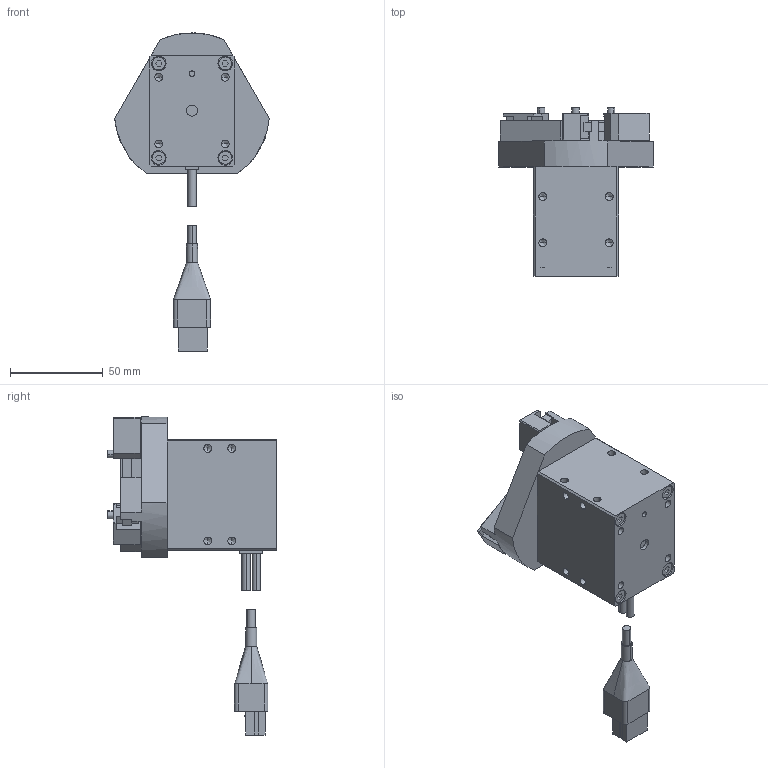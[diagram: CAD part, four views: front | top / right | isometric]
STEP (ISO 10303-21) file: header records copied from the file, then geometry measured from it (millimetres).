
FILE_DESCRIPTION( (''), '2;1');
FILE_NAME ('JPN451UTO395W71.6368.ESG1-ST-4230_5110.stp','2016-01-12T14:13:49',(''),(''),'spGate 4.0','spGate 4.0','');
FILE_SCHEMA (('AUTOMOTIVE_DESIGN'));
Length unit declared in the file: millimetre
Products named in the file (7): Assembly; ESG1-ST-4230_M6; ESG1-ST-4230_M5; ESG1-ST-4230_M4; ESG1-ST-4230_M3; ESG1-ST-4230_M2; ESG1-ST-4230_M1
Assembly tree (6 placements, depth 2):
  Assembly
    ESG1-ST-4230_M6
    ESG1-ST-4230_M5
    ESG1-ST-4230_M4
    ESG1-ST-4230_M3
    ESG1-ST-4230_M2
    ESG1-ST-4230_M1
Bounding box: 83.55 x 91 x 171.88 mm (x, y, z)
Volume: 251832.6 mm3; surface area: 46442.5 mm2
Topology: 6 solids, 6 shells, 423 faces, 1061 edges, 666 vertices
Faces by surface type: plane 278, bspline 134, cylinder 11
Entity records: 21463 total; most frequent: CARTESIAN_POINT 3786, ORIENTED_EDGE 2030, DIRECTION 1642, COLOUR_RGB 1444, PRESENTATION_STYLE_ASSIGNMENT 1444, STYLED_ITEM 1444, EDGE_CURVE 1015, DRAUGHTING_PRE_DEFINED_CURVE_FONT 1015
